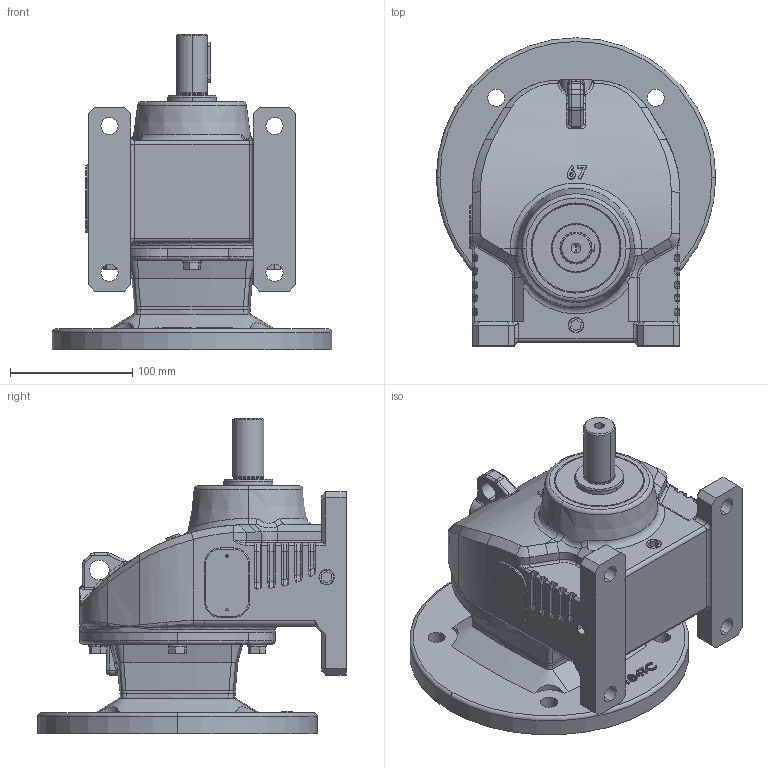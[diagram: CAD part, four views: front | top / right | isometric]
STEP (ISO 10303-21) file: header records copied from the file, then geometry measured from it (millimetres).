
FILE_DESCRIPTION (( 'STEP AP203' ), '1' );
FILE_NAME ('RX067HF-182TC.STEP', '2015-03-16T05:27:08', ( 'user' ), ( '' ), 'SwSTEP 2.0', 'SolidWorks 2012', '' );
FILE_SCHEMA (( 'CONFIG_CONTROL_DESIGN' ));
Products named in the file (27): RX067HF-182TC; JSPC025032005; PCA021_B27.7M - 3AM1-21; PBA6305; PJB02; PKD0606015S; PKD1_4033; PSS040072101; PCB072_JIS B 2804 Hole use 72; PCA030; PBA6306; KEGX067_成大修改; JKGB06774L_JKGB06774L; 067法蘭入力組合182T_3HP-∮16(標準); PJB01; PCA016_PCA016; P103_JKGA1621R; PKD0505015; PBA6009_PBA6009; PWS08_PWS08; PTBA08025; PSS045060091; PTAA10035; KFGG182T; KNGH182T16_KNGH182T16; JHGA06703; JCHX067
Assembly tree (40 placements, depth 3):
  RX067HF-182TC
    JCHX067
    067法蘭入力組合182T_3HP-∮16(標準)
      JHGA06703
      KNGH182T16_KNGH182T16
      KFGG182T
      PTAA10035  x4
      PSS045060091
      PTBA08025  x4
      PWS08_PWS08  x4
      PBA6009_PBA6009  x2
      PKD0505015
      P103_JKGA1621R
      PCA016_PCA016
      PJB01
    JKGB06774L_JKGB06774L
    KEGX067_成大修改
    PBA6306
    PCA030
    PCB072_JIS B 2804 Hole use 72
    PSS040072101
    PKD1_4033
    PKD0606015S
    PJB02  x5
    PBA6305
    PCA021_B27.7M - 3AM1-21
    JSPC025032005
Bounding box: 228.6 x 252.3 x 258 mm (x, y, z)
Volume: 2310882 mm3; surface area: 613783.7 mm2
Topology: 39 solids, 39 shells, 1940 faces, 5431 edges, 3430 vertices
Faces by surface type: cylinder 581, plane 538, torus 283, bspline 235, cone 194, sphere 109
Entity records: 73851 total; most frequent: CARTESIAN_POINT 30541, ORIENTED_EDGE 8862, DIRECTION 7874, EDGE_CURVE 4431, AXIS2_PLACEMENT_3D 3184, VERTEX_POINT 2826, EDGE_LOOP 1857, CIRCLE 1700
